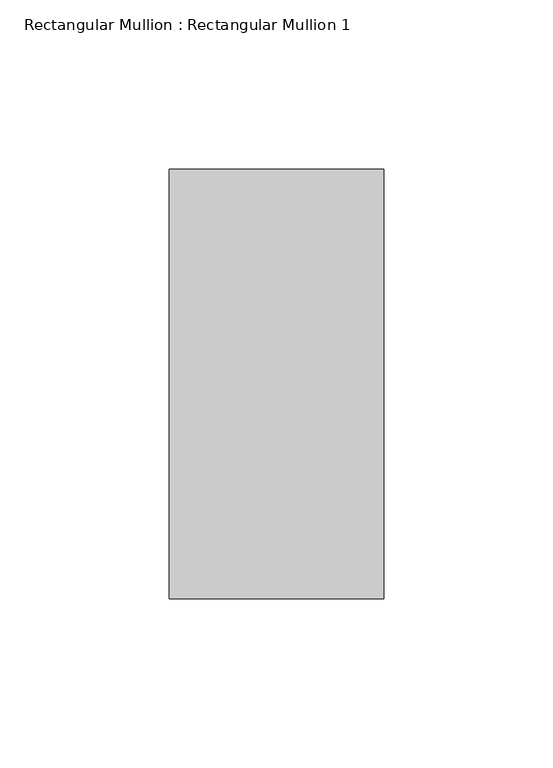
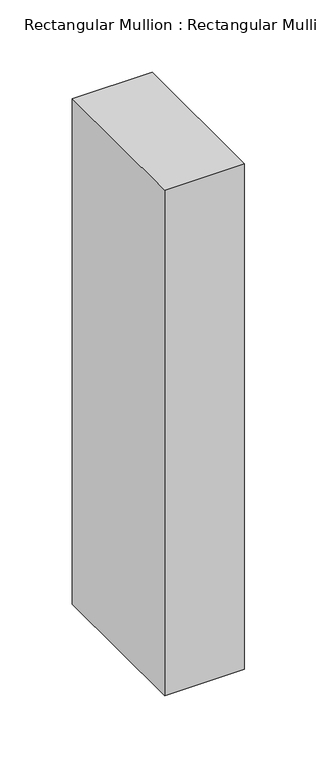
"""IFC4 building model written with IfcOpenShell, lengths in millimetres: member geometry, Rectangular Mullion : Rectangular Mullion 1."""

from ifc_helpers import new_model, si_unit, frame, origin, place, context, project, spatial, polyline, outline, extrude, source, transform, mapped, element, save


def rectangular_mullion_rectangular_mullion_1_84b97a81(model_context):
    return source(origin(), model_context, "Body", "SweptSolid", [
        extrude(outline(polyline([(0.0, 63.5), (0.0, -63.5), (-63.5, -63.5), (-63.5, 63.5), (0.0, 63.5)])), frame((0.0, 0.0, -425.45), z_axis=(0.0, 0.0, 1.0), x_axis=(1.0, 0.0, 0.0)), (0.0, 0.0, 1.0), 425.45),
    ])


if __name__ == "__main__":
    model = new_model("IFC4")
    model_context = context("Model", 3, world=origin())
    ifc_project = project(units=[si_unit("LENGTHUNIT", "METRE", prefix="MILLI")], contexts=[model_context])
    site = spatial("IfcSite", under=ifc_project)
    building = spatial("IfcBuilding", under=site)
    placement = place(None, origin())
    rectangular_mullion_rectangular_mullion_1_shape = rectangular_mullion_rectangular_mullion_1_84b97a81(model_context)
    element("IfcMember", 1, ObjectType="Rectangular Mullion : Rectangular Mullion 1", at=placement, inside=building, context=model_context, shape_type="MappedRepresentation", body=[
        mapped(rectangular_mullion_rectangular_mullion_1_shape, transform((0.0, 0.0, 0.0), x_axis=(1.0, 0.0, 0.0), y_axis=(0.0, 1.0, 0.0), z_axis=(0.0, 0.0, 1.0))),
    ])
    save(model, "model.ifc")
